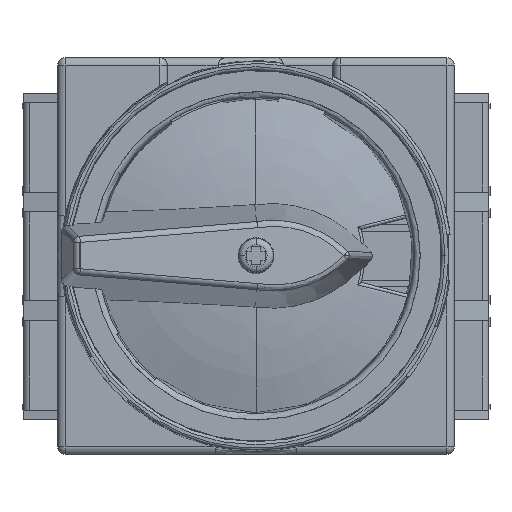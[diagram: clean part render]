
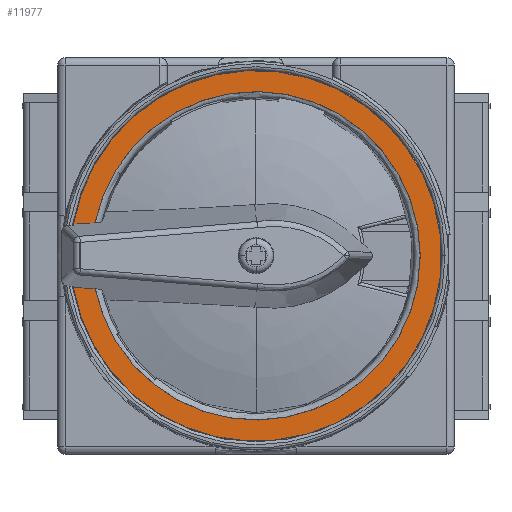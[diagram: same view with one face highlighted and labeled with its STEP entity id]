
A CAD part, top view. The second image highlights one B-rep face of the part: STEP entity #11977.
In plain terms, the highlighted planar face has unit normal (0, 0, 1).
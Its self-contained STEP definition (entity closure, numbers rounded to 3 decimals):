
#445 = CARTESIAN_POINT ( 'NONE',  ( -104.385, -9.7, 61.021 ) ) ;
#711 = AXIS2_PLACEMENT_3D ( 'NONE', #185579, #8524, #71548 ) ;
#7432 = CARTESIAN_POINT ( 'NONE',  ( -72.84, -4.746, 61.021 ) ) ;
#8524 = DIRECTION ( 'NONE',  ( 0., 0., -1. ) ) ;
#11977 = ADVANCED_FACE ( 'NONE', ( #47414 ), #109043, .T. ) ;
#12708 = DIRECTION ( 'NONE',  ( 0., 0., 1. ) ) ;
#13278 = AXIS2_PLACEMENT_3D ( 'NONE', #199834, #71654, #152413 ) ;
#13566 = ORIENTED_EDGE ( 'NONE', *, *, #154138, .F. ) ;
#17520 = EDGE_CURVE ( 'NONE', #173044, #154808, #100021, .T. ) ;
#19339 = EDGE_CURVE ( 'NONE', #144261, #140824, #100759, .T. ) ;
#22084 = AXIS2_PLACEMENT_3D ( 'NONE', #7432, #110719, #141229 ) ;
#22641 = VERTEX_POINT ( 'NONE', #181190 ) ;
#23688 = CARTESIAN_POINT ( 'NONE',  ( -72.885, 2.208, 61.021 ) ) ;
#29868 = CIRCLE ( 'NONE', #13278, 26.5 ) ;
#39352 = CARTESIAN_POINT ( 'NONE',  ( -43.14, 25.154, 61.021 ) ) ;
#41058 = DIRECTION ( 'NONE',  ( -0.998, 0.063, 0. ) ) ;
#47414 = FACE_OUTER_BOUND ( 'NONE', #133520, .T. ) ;
#56304 = VECTOR ( 'NONE', #119501, 1000. ) ;
#71548 = DIRECTION ( 'NONE',  ( 1., 0., 0. ) ) ;
#71654 = DIRECTION ( 'NONE',  ( 0., 0., -1. ) ) ;
#77002 = LINE ( 'NONE', #23688, #109941 ) ;
#79581 = CARTESIAN_POINT ( 'NONE',  ( -98.803, -10.054, 61.021 ) ) ;
#81617 = EDGE_CURVE ( 'NONE', #22641, #160829, #29868, .T. ) ;
#87581 = LINE ( 'NONE', #445, #128299 ) ;
#99440 = LINE ( 'NONE', #39352, #56304 ) ;
#100021 = CIRCLE ( 'NONE', #22084, 29.9 ) ;
#100759 = CIRCLE ( 'NONE', #711, 29.9 ) ;
#103052 = CARTESIAN_POINT ( 'NONE',  ( -102.304, -9.832, 61.021 ) ) ;
#109043 = PLANE ( 'NONE',  #206683 ) ;
#109401 = DIRECTION ( 'NONE',  ( 0.998, 0.063, 0. ) ) ;
#109941 = VECTOR ( 'NONE', #109401, 1000. ) ;
#110719 = DIRECTION ( 'NONE',  ( 0., 0., -1. ) ) ;
#111115 = ORIENTED_EDGE ( 'NONE', *, *, #17520, .F. ) ;
#111694 = ORIENTED_EDGE ( 'NONE', *, *, #19339, .F. ) ;
#119501 = DIRECTION ( 'NONE',  ( 0., -1., 0. ) ) ;
#128299 = VECTOR ( 'NONE', #41058, 1000. ) ;
#133520 = EDGE_LOOP ( 'NONE', ( #13566, #111694, #201028, #150133, #194818, #111115 ) ) ;
#140824 = VERTEX_POINT ( 'NONE', #182184 ) ;
#141229 = DIRECTION ( 'NONE',  ( 1., 0., 0. ) ) ;
#144261 = VERTEX_POINT ( 'NONE', #195570 ) ;
#150133 = ORIENTED_EDGE ( 'NONE', *, *, #81617, .T. ) ;
#152413 = DIRECTION ( 'NONE',  ( -1., 0., 0. ) ) ;
#154138 = EDGE_CURVE ( 'NONE', #140824, #173044, #99440, .T. ) ;
#154808 = VERTEX_POINT ( 'NONE', #103052 ) ;
#159287 = CARTESIAN_POINT ( 'NONE',  ( -72.84, 25.154, 61.021 ) ) ;
#160829 = VERTEX_POINT ( 'NONE', #79581 ) ;
#173044 = VERTEX_POINT ( 'NONE', #192165 ) ;
#181190 = CARTESIAN_POINT ( 'NONE',  ( -98.803, 0.562, 61.021 ) ) ;
#182184 = CARTESIAN_POINT ( 'NONE',  ( -43.14, -1.294, 61.021 ) ) ;
#183026 = EDGE_CURVE ( 'NONE', #160829, #154808, #87581, .T. ) ;
#185579 = CARTESIAN_POINT ( 'NONE',  ( -72.84, -4.746, 61.021 ) ) ;
#191811 = DIRECTION ( 'NONE',  ( -1., 0., 0. ) ) ;
#192165 = CARTESIAN_POINT ( 'NONE',  ( -43.14, -8.199, 61.021 ) ) ;
#194818 = ORIENTED_EDGE ( 'NONE', *, *, #183026, .T. ) ;
#195570 = CARTESIAN_POINT ( 'NONE',  ( -102.304, 0.34, 61.021 ) ) ;
#199438 = EDGE_CURVE ( 'NONE', #144261, #22641, #77002, .T. ) ;
#199834 = CARTESIAN_POINT ( 'NONE',  ( -72.84, -4.746, 61.021 ) ) ;
#201028 = ORIENTED_EDGE ( 'NONE', *, *, #199438, .T. ) ;
#206683 = AXIS2_PLACEMENT_3D ( 'NONE', #159287, #12708, #191811 ) ;
